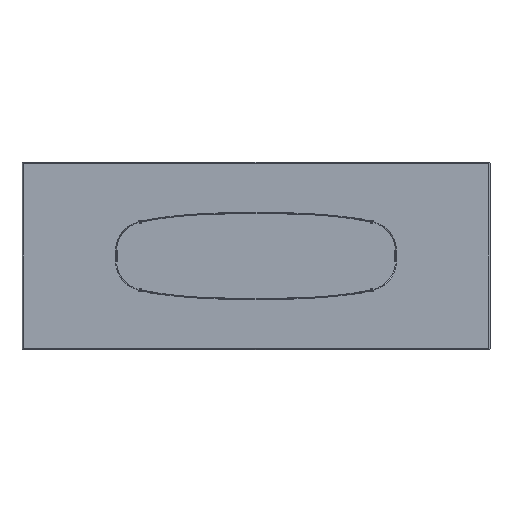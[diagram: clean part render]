
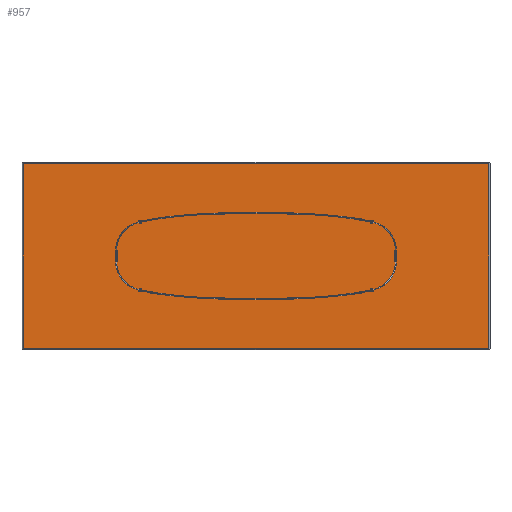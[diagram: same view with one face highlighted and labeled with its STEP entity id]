
A CAD part, front view. The second image highlights one B-rep face of the part: STEP entity #957.
In plain terms, the highlighted planar face has unit normal (0, -1, 0).
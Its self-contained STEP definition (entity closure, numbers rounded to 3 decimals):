
#557 = VERTEX_POINT ( 'NONE', #17046 ) ;
#957 = ADVANCED_FACE ( 'NONE', ( #8561 ), #1736, .F. ) ;
#1215 = VECTOR ( 'NONE', #2294, 1000. ) ;
#1736 = PLANE ( 'NONE',  #12818 ) ;
#1855 = VERTEX_POINT ( 'NONE', #4285 ) ;
#2051 = LINE ( 'NONE', #8790, #1215 ) ;
#2294 = DIRECTION ( 'NONE',  ( 0., 0., 1. ) ) ;
#2348 = EDGE_CURVE ( 'NONE', #1855, #5026, #10842, .T. ) ;
#3764 = DIRECTION ( 'NONE',  ( 1., 0., 0. ) ) ;
#4285 = CARTESIAN_POINT ( 'NONE',  ( 1492., 0., 592. ) ) ;
#5026 = VERTEX_POINT ( 'NONE', #15684 ) ;
#5727 = VERTEX_POINT ( 'NONE', #10318 ) ;
#5928 = DIRECTION ( 'NONE',  ( 0., 0., 1. ) ) ;
#5929 = VECTOR ( 'NONE', #14283, 1000. ) ;
#6223 = LINE ( 'NONE', #7883, #5929 ) ;
#7260 = CARTESIAN_POINT ( 'NONE',  ( 0., 0., 0. ) ) ;
#7883 = CARTESIAN_POINT ( 'NONE',  ( -1492., 0., 0. ) ) ;
#8561 = FACE_OUTER_BOUND ( 'NONE', #11808, .T. ) ;
#8790 = CARTESIAN_POINT ( 'NONE',  ( 1492., 0., 0. ) ) ;
#10318 = CARTESIAN_POINT ( 'NONE',  ( -1492., 0., -592. ) ) ;
#10324 = ORIENTED_EDGE ( 'NONE', *, *, #2348, .T. ) ;
#10758 = DIRECTION ( 'NONE',  ( -1., 0., 0. ) ) ;
#10842 = LINE ( 'NONE', #12159, #12533 ) ;
#11037 = VECTOR ( 'NONE', #3764, 1000. ) ;
#11808 = EDGE_LOOP ( 'NONE', ( #15922, #10324, #16549, #12163 ) ) ;
#12159 = CARTESIAN_POINT ( 'NONE',  ( 0., 0., 592. ) ) ;
#12163 = ORIENTED_EDGE ( 'NONE', *, *, #14607, .T. ) ;
#12485 = EDGE_CURVE ( 'NONE', #557, #1855, #2051, .T. ) ;
#12533 = VECTOR ( 'NONE', #10758, 1000. ) ;
#12595 = DIRECTION ( 'NONE',  ( 0., 1., 0. ) ) ;
#12818 = AXIS2_PLACEMENT_3D ( 'NONE', #7260, #12595, #5928 ) ;
#14283 = DIRECTION ( 'NONE',  ( 0., 0., -1. ) ) ;
#14549 = LINE ( 'NONE', #15533, #11037 ) ;
#14607 = EDGE_CURVE ( 'NONE', #5727, #557, #14549, .T. ) ;
#15533 = CARTESIAN_POINT ( 'NONE',  ( 0., 0., -592. ) ) ;
#15684 = CARTESIAN_POINT ( 'NONE',  ( -1492., 0., 592. ) ) ;
#15922 = ORIENTED_EDGE ( 'NONE', *, *, #12485, .T. ) ;
#16549 = ORIENTED_EDGE ( 'NONE', *, *, #17228, .T. ) ;
#17046 = CARTESIAN_POINT ( 'NONE',  ( 1492., 0., -592. ) ) ;
#17228 = EDGE_CURVE ( 'NONE', #5026, #5727, #6223, .T. ) ;
